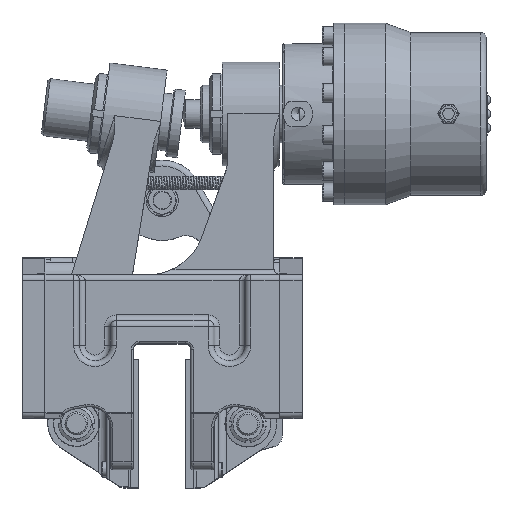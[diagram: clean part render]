
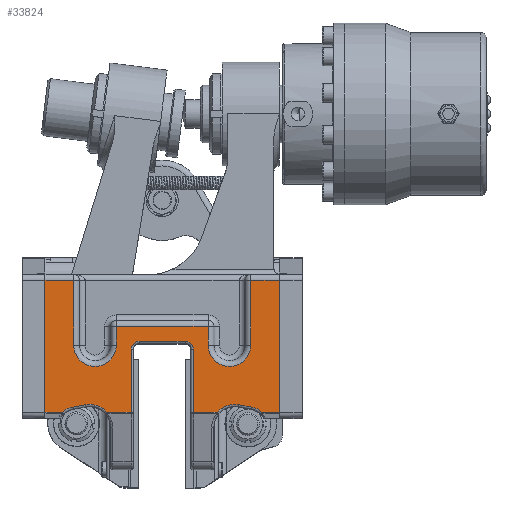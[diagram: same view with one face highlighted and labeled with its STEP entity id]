
A CAD part, top view. The second image highlights one B-rep face of the part: STEP entity #33824.
In plain terms, the highlighted planar face has unit normal (0, 0, 1).
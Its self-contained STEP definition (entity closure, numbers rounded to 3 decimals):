
#1796=PLANE('',#36885);
#3466=FACE_OUTER_BOUND('',#5417,.T.);
#5417=EDGE_LOOP('',(#27031,#27032,#27033,#27034,#27035,#27036,#27037,#27038,
#27039,#27040,#27041,#27042,#27043,#27044,#27045,#27046,#27047,#27048,#27049,
#27050,#27051,#27052,#27053,#27054,#27055,#27056));
#7241=LINE('',#61064,#9519);
#7394=LINE('',#61643,#9672);
#7629=LINE('',#62681,#9907);
#7631=LINE('',#62698,#9909);
#7634=LINE('',#62710,#9912);
#7636=LINE('',#62720,#9914);
#7638=LINE('',#62726,#9916);
#7639=LINE('',#62729,#9917);
#7641=LINE('',#62740,#9919);
#7666=LINE('',#63046,#9944);
#7667=LINE('',#63054,#9945);
#7668=LINE('',#63062,#9946);
#7674=LINE('',#63094,#9952);
#7675=LINE('',#63102,#9953);
#7679=LINE('',#63167,#9957);
#7690=LINE('',#63254,#9968);
#7691=LINE('',#63260,#9969);
#7692=LINE('',#63262,#9970);
#9519=VECTOR('',#42902,10.);
#9672=VECTOR('',#43451,10.);
#9907=VECTOR('',#44284,5.);
#9909=VECTOR('',#44304,10.);
#9912=VECTOR('',#44319,10.);
#9914=VECTOR('',#44331,10.);
#9916=VECTOR('',#44337,5.);
#9917=VECTOR('',#44340,10.);
#9919=VECTOR('',#44354,10.);
#9944=VECTOR('',#44485,10.);
#9945=VECTOR('',#44496,10.);
#9946=VECTOR('',#44507,10.);
#9952=VECTOR('',#44541,10.);
#9953=VECTOR('',#44544,10.);
#9957=VECTOR('',#44582,10.);
#9968=VECTOR('',#44615,10.);
#9969=VECTOR('',#44620,10.);
#9970=VECTOR('',#44623,10.);
#11831=CIRCLE('',#36761,18.5);
#11839=CIRCLE('',#36775,18.5);
#11869=CIRCLE('',#36834,7.);
#11872=CIRCLE('',#36839,7.);
#11888=CIRCLE('',#36871,20.);
#11891=CIRCLE('',#36876,18.);
#11894=CIRCLE('',#36886,18.);
#11895=CIRCLE('',#36887,20.);
#14262=VERTEX_POINT('',#61057);
#14264=VERTEX_POINT('',#61063);
#14449=VERTEX_POINT('',#61638);
#14450=VERTEX_POINT('',#61642);
#14722=VERTEX_POINT('',#62680);
#14724=VERTEX_POINT('',#62686);
#14728=VERTEX_POINT('',#62697);
#14730=VERTEX_POINT('',#62703);
#14732=VERTEX_POINT('',#62712);
#14736=VERTEX_POINT('',#62724);
#14737=VERTEX_POINT('',#62728);
#14739=VERTEX_POINT('',#62734);
#14764=VERTEX_POINT('',#63041);
#14765=VERTEX_POINT('',#63045);
#14766=VERTEX_POINT('',#63049);
#14767=VERTEX_POINT('',#63053);
#14768=VERTEX_POINT('',#63057);
#14769=VERTEX_POINT('',#63061);
#14777=VERTEX_POINT('',#63089);
#14778=VERTEX_POINT('',#63096);
#14782=VERTEX_POINT('',#63161);
#14783=VERTEX_POINT('',#63165);
#14792=VERTEX_POINT('',#63249);
#14793=VERTEX_POINT('',#63256);
#14794=VERTEX_POINT('',#63257);
#14795=VERTEX_POINT('',#63259);
#18258=EDGE_CURVE('',#14264,#14262,#7241,.T.);
#18530=EDGE_CURVE('',#14449,#14450,#7394,.T.);
#18961=EDGE_CURVE('',#14262,#14722,#7629,.T.);
#18969=EDGE_CURVE('',#14722,#14728,#7631,.T.);
#18972=EDGE_CURVE('',#14728,#14730,#11831,.T.);
#18976=EDGE_CURVE('',#14730,#14724,#7634,.T.);
#18981=EDGE_CURVE('',#14724,#14732,#7636,.T.);
#18984=EDGE_CURVE('',#14736,#14449,#7638,.T.);
#18985=EDGE_CURVE('',#14732,#14737,#7639,.T.);
#18988=EDGE_CURVE('',#14737,#14739,#11839,.T.);
#18991=EDGE_CURVE('',#14739,#14736,#7641,.T.);
#19048=EDGE_CURVE('',#14764,#14765,#7666,.T.);
#19050=EDGE_CURVE('',#14765,#14766,#11869,.T.);
#19052=EDGE_CURVE('',#14766,#14767,#7667,.T.);
#19054=EDGE_CURVE('',#14767,#14768,#11872,.T.);
#19056=EDGE_CURVE('',#14768,#14769,#7668,.T.);
#19071=EDGE_CURVE('',#14450,#14777,#7674,.T.);
#19073=EDGE_CURVE('',#14778,#14764,#7675,.T.);
#19085=EDGE_CURVE('',#14782,#14778,#11888,.T.);
#19087=EDGE_CURVE('',#14783,#14782,#7679,.T.);
#19089=EDGE_CURVE('',#14777,#14783,#11891,.T.);
#19105=EDGE_CURVE('',#14769,#14792,#7690,.T.);
#19106=EDGE_CURVE('',#14793,#14794,#11894,.T.);
#19107=EDGE_CURVE('',#14795,#14793,#7691,.T.);
#19108=EDGE_CURVE('',#14792,#14795,#11895,.T.);
#19109=EDGE_CURVE('',#14794,#14264,#7692,.T.);
#27031=ORIENTED_EDGE('',*,*,#19106,.F.);
#27032=ORIENTED_EDGE('',*,*,#19107,.F.);
#27033=ORIENTED_EDGE('',*,*,#19108,.F.);
#27034=ORIENTED_EDGE('',*,*,#19105,.F.);
#27035=ORIENTED_EDGE('',*,*,#19056,.F.);
#27036=ORIENTED_EDGE('',*,*,#19054,.F.);
#27037=ORIENTED_EDGE('',*,*,#19052,.F.);
#27038=ORIENTED_EDGE('',*,*,#19050,.F.);
#27039=ORIENTED_EDGE('',*,*,#19048,.F.);
#27040=ORIENTED_EDGE('',*,*,#19073,.F.);
#27041=ORIENTED_EDGE('',*,*,#19085,.F.);
#27042=ORIENTED_EDGE('',*,*,#19087,.F.);
#27043=ORIENTED_EDGE('',*,*,#19089,.F.);
#27044=ORIENTED_EDGE('',*,*,#19071,.F.);
#27045=ORIENTED_EDGE('',*,*,#18530,.F.);
#27046=ORIENTED_EDGE('',*,*,#18984,.F.);
#27047=ORIENTED_EDGE('',*,*,#18991,.F.);
#27048=ORIENTED_EDGE('',*,*,#18988,.F.);
#27049=ORIENTED_EDGE('',*,*,#18985,.F.);
#27050=ORIENTED_EDGE('',*,*,#18981,.F.);
#27051=ORIENTED_EDGE('',*,*,#18976,.F.);
#27052=ORIENTED_EDGE('',*,*,#18972,.F.);
#27053=ORIENTED_EDGE('',*,*,#18969,.F.);
#27054=ORIENTED_EDGE('',*,*,#18961,.F.);
#27055=ORIENTED_EDGE('',*,*,#18258,.F.);
#27056=ORIENTED_EDGE('',*,*,#19109,.F.);
#33824=ADVANCED_FACE('',(#3466),#1796,.T.);
#36761=AXIS2_PLACEMENT_3D('',#62704,#44310,#44311);
#36775=AXIS2_PLACEMENT_3D('',#62735,#44346,#44347);
#36834=AXIS2_PLACEMENT_3D('',#63050,#44490,#44491);
#36839=AXIS2_PLACEMENT_3D('',#63058,#44501,#44502);
#36871=AXIS2_PLACEMENT_3D('',#63163,#44576,#44577);
#36876=AXIS2_PLACEMENT_3D('',#63170,#44587,#44588);
#36885=AXIS2_PLACEMENT_3D('',#63255,#44616,#44617);
#36886=AXIS2_PLACEMENT_3D('',#63258,#44618,#44619);
#36887=AXIS2_PLACEMENT_3D('',#63261,#44621,#44622);
#42902=DIRECTION('',(0.,1.,0.));
#43451=DIRECTION('',(0.,-1.,0.));
#44284=DIRECTION('',(1.,0.,0.));
#44304=DIRECTION('',(0.,-1.,0.));
#44310=DIRECTION('center_axis',(0.,0.,
1.));
#44311=DIRECTION('ref_axis',(0.,-1.,0.));
#44319=DIRECTION('',(0.,1.,0.));
#44331=DIRECTION('',(1.,0.,0.));
#44337=DIRECTION('',(1.,0.,0.));
#44340=DIRECTION('',(0.,-1.,0.));
#44346=DIRECTION('center_axis',(0.,0.,
1.));
#44347=DIRECTION('ref_axis',(0.,-1.,0.));
#44354=DIRECTION('',(0.,1.,0.));
#44485=DIRECTION('',(0.,1.,0.));
#44490=DIRECTION('center_axis',(0.,0.,
1.));
#44491=DIRECTION('ref_axis',(0.707,0.707,0.));
#44496=DIRECTION('',(-1.,0.,0.));
#44501=DIRECTION('center_axis',(0.,0.,
1.));
#44502=DIRECTION('ref_axis',(-0.707,0.707,0.));
#44507=DIRECTION('',(0.,-1.,0.));
#44541=DIRECTION('',(-1.,0.,0.));
#44544=DIRECTION('',(-1.,0.,0.));
#44576=DIRECTION('center_axis',(0.,0.,
1.));
#44577=DIRECTION('ref_axis',(-0.29,0.957,0.));
#44582=DIRECTION('',(-0.985,0.174,0.));
#44587=DIRECTION('center_axis',(0.,0.,
1.));
#44588=DIRECTION('ref_axis',(0.388,0.922,0.));
#44615=DIRECTION('',(-1.,0.,0.));
#44616=DIRECTION('center_axis',(0.,0.,
1.));
#44617=DIRECTION('ref_axis',(1.,0.,0.));
#44618=DIRECTION('center_axis',(0.,0.,
1.));
#44619=DIRECTION('ref_axis',(-0.388,0.922,0.));
#44620=DIRECTION('',(-0.985,-0.174,0.));
#44621=DIRECTION('center_axis',(0.,0.,
1.));
#44622=DIRECTION('ref_axis',(0.29,0.957,0.));
#44623=DIRECTION('',(-1.,0.,0.));
#61057=CARTESIAN_POINT('',(-102.,165.,285.));
#61063=CARTESIAN_POINT('',(-102.,50.,285.));
#61064=CARTESIAN_POINT('',(-102.,165.,285.));
#61638=CARTESIAN_POINT('',(102.,165.,285.));
#61642=CARTESIAN_POINT('',(102.,50.,285.));
#61643=CARTESIAN_POINT('',(102.,165.,285.));
#62680=CARTESIAN_POINT('',(-77.,165.,285.));
#62681=CARTESIAN_POINT('',(102.,165.,285.));
#62686=CARTESIAN_POINT('',(-40.,125.,285.));
#62697=CARTESIAN_POINT('',(-77.,108.5,285.));
#62698=CARTESIAN_POINT('',(-77.,99.315,285.));
#62703=CARTESIAN_POINT('',(-40.,108.5,285.));
#62704=CARTESIAN_POINT('Origin',(-58.5,108.5,285.));
#62710=CARTESIAN_POINT('',(-40.,107.565,285.));
#62712=CARTESIAN_POINT('',(40.,125.,285.));
#62720=CARTESIAN_POINT('',(20.,125.,285.));
#62724=CARTESIAN_POINT('',(77.,165.,285.));
#62726=CARTESIAN_POINT('',(0.,165.,285.));
#62728=CARTESIAN_POINT('',(40.,108.5,285.));
#62729=CARTESIAN_POINT('',(40.,99.315,285.));
#62734=CARTESIAN_POINT('',(77.,108.5,285.));
#62735=CARTESIAN_POINT('Origin',(58.5,108.5,285.));
#62740=CARTESIAN_POINT('',(77.,127.565,285.));
#63041=CARTESIAN_POINT('',(27.,50.,285.));
#63045=CARTESIAN_POINT('',(27.,105.,285.));
#63046=CARTESIAN_POINT('',(27.,97.565,285.));
#63049=CARTESIAN_POINT('',(20.,112.,285.));
#63050=CARTESIAN_POINT('Origin',(20.,105.,285.));
#63053=CARTESIAN_POINT('',(-20.,112.,285.));
#63054=CARTESIAN_POINT('',(-10.,112.,285.));
#63057=CARTESIAN_POINT('',(-27.,105.,285.));
#63058=CARTESIAN_POINT('Origin',(-20.,105.,285.));
#63061=CARTESIAN_POINT('',(-27.,50.,285.));
#63062=CARTESIAN_POINT('',(-27.,45.065,285.));
#63089=CARTESIAN_POINT('',(86.95,50.,285.));
#63094=CARTESIAN_POINT('',(-102.,50.,285.));
#63096=CARTESIAN_POINT('',(47.801,50.,285.));
#63102=CARTESIAN_POINT('',(-102.,50.,285.));
#63161=CARTESIAN_POINT('',(66.478,56.695,285.));
#63163=CARTESIAN_POINT('Origin',(63.,37.,285.));
#63165=CARTESIAN_POINT('',(77.63,54.726,285.));
#63167=CARTESIAN_POINT('',(31.381,62.893,285.));
#63170=CARTESIAN_POINT('Origin',(74.5,37.,285.));
#63249=CARTESIAN_POINT('',(-47.801,50.,285.));
#63254=CARTESIAN_POINT('',(-102.,50.,285.));
#63255=CARTESIAN_POINT('Origin',(0.,90.129,
285.));
#63256=CARTESIAN_POINT('',(-77.63,54.726,285.));
#63257=CARTESIAN_POINT('',(-86.95,50.,285.));
#63258=CARTESIAN_POINT('Origin',(-74.5,37.,285.));
#63259=CARTESIAN_POINT('',(-66.478,56.695,285.));
#63260=CARTESIAN_POINT('',(-36.958,61.909,285.));
#63261=CARTESIAN_POINT('Origin',(-63.,37.,285.));
#63262=CARTESIAN_POINT('',(-102.,50.,285.));
